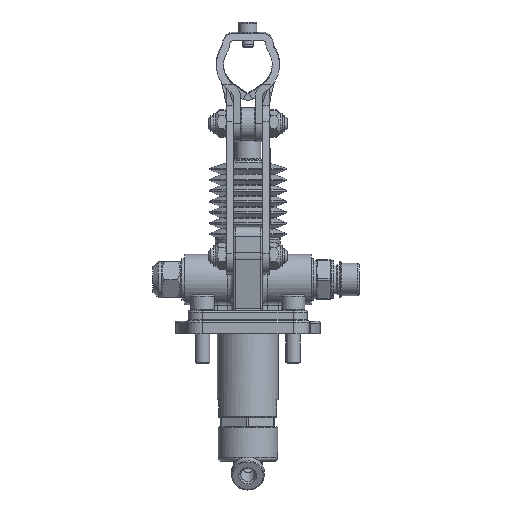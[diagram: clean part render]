
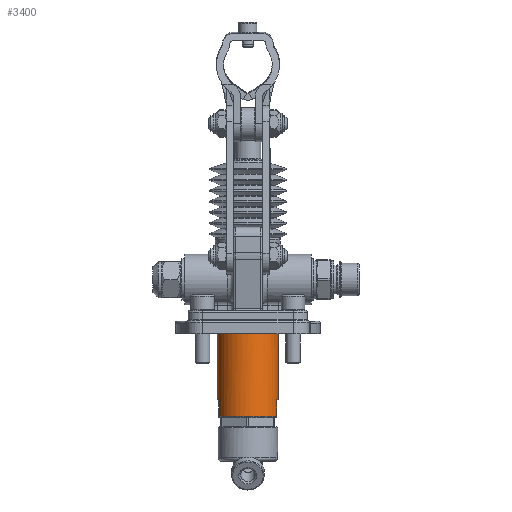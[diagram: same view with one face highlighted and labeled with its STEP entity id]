
A CAD part, left-side view. The second image highlights one B-rep face of the part: STEP entity #3400.
In plain terms, the highlighted cylindrical face has radius 17 mm (diameter 34 mm), a full revolution.
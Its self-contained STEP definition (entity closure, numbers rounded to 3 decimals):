
#3065=CARTESIAN_POINT('',(53.255,18.,-37.5));
#3066=VERTEX_POINT('',#3065);
#3067=CARTESIAN_POINT('',(64.745,18.,-37.5));
#3068=VERTEX_POINT('',#3067);
#3069=CARTESIAN_POINT('',(59.,34.,-37.5));
#3070=DIRECTION('',(0.0,0.0,1.0));
#3071=DIRECTION('',(1.0,0.0,0.0));
#3072=AXIS2_PLACEMENT_3D('',#3069,#3070,#3071);
#3073=CIRCLE('',#3072,17.0);
#3074=EDGE_CURVE('',#3066,#3068,#3073,.T.);
#3090=CARTESIAN_POINT('',(64.745,18.,-46.5));
#3091=VERTEX_POINT('',#3090);
#3105=CARTESIAN_POINT('',(64.745,18.,-37.5));
#3106=DIRECTION('',(0.0,0.0,-1.0));
#3107=VECTOR('',#3106,9.0);
#3108=LINE('',#3105,#3107);
#3109=EDGE_CURVE('',#3068,#3091,#3108,.T.);
#3112=CARTESIAN_POINT('',(53.255,18.,-46.5));
#3113=VERTEX_POINT('',#3112);
#3114=CARTESIAN_POINT('',(53.255,18.,-46.5));
#3115=DIRECTION('',(0.0,0.0,1.0));
#3116=VECTOR('',#3115,9.0);
#3117=LINE('',#3114,#3116);
#3118=EDGE_CURVE('',#3113,#3066,#3117,.T.);
#3142=CARTESIAN_POINT('',(53.255,50.,-37.5));
#3143=VERTEX_POINT('',#3142);
#3144=CARTESIAN_POINT('',(53.255,50.,-46.5));
#3145=VERTEX_POINT('',#3144);
#3146=CARTESIAN_POINT('',(53.255,50.,-37.5));
#3147=DIRECTION('',(0.0,0.0,-1.0));
#3148=VECTOR('',#3147,9.0);
#3149=LINE('',#3146,#3148);
#3150=EDGE_CURVE('',#3143,#3145,#3149,.T.);
#3152=CARTESIAN_POINT('',(64.745,50.,-37.5));
#3153=VERTEX_POINT('',#3152);
#3160=CARTESIAN_POINT('',(64.745,50.,-46.5));
#3161=VERTEX_POINT('',#3160);
#3162=CARTESIAN_POINT('',(64.745,50.,-46.5));
#3163=DIRECTION('',(0.0,0.0,1.0));
#3164=VECTOR('',#3163,9.0);
#3165=LINE('',#3162,#3164);
#3166=EDGE_CURVE('',#3161,#3153,#3165,.T.);
#3203=CARTESIAN_POINT('',(59.,34.,-37.5));
#3204=DIRECTION('',(0.0,0.0,1.0));
#3205=DIRECTION('',(1.0,0.0,0.0));
#3206=AXIS2_PLACEMENT_3D('',#3203,#3204,#3205);
#3207=CIRCLE('',#3206,17.0);
#3208=EDGE_CURVE('',#3153,#3143,#3207,.T.);
#3220=CARTESIAN_POINT('',(59.,34.,-46.5));
#3221=DIRECTION('',(0.0,0.0,-1.0));
#3222=DIRECTION('',(1.0,0.0,0.0));
#3223=AXIS2_PLACEMENT_3D('',#3220,#3221,#3222);
#3224=CIRCLE('',#3223,17.0);
#3225=EDGE_CURVE('',#3113,#3145,#3224,.T.);
#3364=CARTESIAN_POINT('',(59.,34.,-46.5));
#3365=DIRECTION('',(0.0,0.0,-1.0));
#3366=DIRECTION('',(1.0,0.0,0.0));
#3367=AXIS2_PLACEMENT_3D('',#3364,#3365,#3366);
#3368=CIRCLE('',#3367,17.0);
#3369=EDGE_CURVE('',#3161,#3091,#3368,.T.);
#3374=CARTESIAN_POINT('',(59.,34.,-47.5));
#3375=DIRECTION('',(0.,0.0,1.0));
#3376=DIRECTION('',(1.0,0.0,0.0));
#3377=AXIS2_PLACEMENT_3D('',#3374,#3375,#3376);
#3378=CYLINDRICAL_SURFACE('',#3377,17.0);
#3379=CARTESIAN_POINT('',(42.,34.,1.25));
#3380=VERTEX_POINT('',#3379);
#3381=CARTESIAN_POINT('',(59.,34.,1.25));
#3382=DIRECTION('',(0.0,0.0,-1.0));
#3383=DIRECTION('',(1.0,0.0,0.0));
#3384=AXIS2_PLACEMENT_3D('',#3381,#3382,#3383);
#3385=CIRCLE('',#3384,17.0);
#3386=EDGE_CURVE('',#3380,#3380,#3385,.T.);
#3387=ORIENTED_EDGE('',*,*,#3386,.T.);
#3388=EDGE_LOOP('',(#3387));
#3389=FACE_OUTER_BOUND('',#3388,.T.);
#3390=ORIENTED_EDGE('',*,*,#3109,.T.);
#3391=ORIENTED_EDGE('',*,*,#3369,.F.);
#3392=ORIENTED_EDGE('',*,*,#3166,.T.);
#3393=ORIENTED_EDGE('',*,*,#3208,.T.);
#3394=ORIENTED_EDGE('',*,*,#3150,.T.);
#3395=ORIENTED_EDGE('',*,*,#3225,.F.);
#3396=ORIENTED_EDGE('',*,*,#3118,.T.);
#3397=ORIENTED_EDGE('',*,*,#3074,.T.);
#3398=EDGE_LOOP('',(#3390,#3391,#3392,#3393,#3394,#3395,#3396,#3397));
#3399=FACE_BOUND('',#3398,.T.);
#3400=ADVANCED_FACE('',(#3389,#3399),#3378,.T.);
